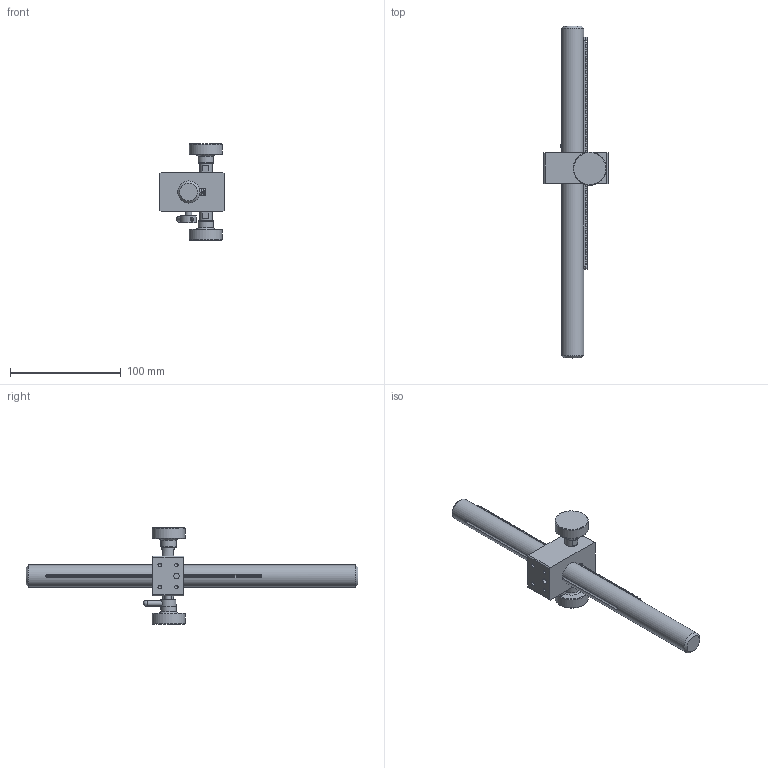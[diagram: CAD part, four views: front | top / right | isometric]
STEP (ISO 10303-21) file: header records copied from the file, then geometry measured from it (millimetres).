
FILE_DESCRIPTION (( 'STEP AP203' ), '1' );
FILE_NAME ('BZK300.STEP', '2024-08-06T01:27:00', ( 'Windows User' ), ( 'P R C' ), 'SwSTEP 2.0', 'SolidWorks 2024', '' );
FILE_SCHEMA (( 'CONFIG_CONTROL_DESIGN' ));
Products named in the file (1): BZK300
Bounding box: 58 x 300 x 87 mm (x, y, z)
Volume: 162770 mm3; surface area: 51346.8 mm2
Topology: 15 solids, 15 shells, 821 faces, 2304 edges, 1516 vertices
Faces by surface type: plane 649, cylinder 95, cone 34, bspline 33, sphere 6, torus 4
Full cylindrical faces by diameter (mm): 1.6 x4, 2 x2, 2.3 x2, 2.4 x2, 2.5 x4, 3 x1, 3.3 x7, 3.8 x2, 4 x1, 4.3 x2, 5 x3, 5.3 x1, 5.5 x1, 6 x1, 7 x5, 7.8 x2, 11.5 x2, 12.2 x2, 14 x3, 20 x1, 30 x2
Entity records: 136370 total; most frequent: CARTESIAN_POINT 116162, ORIENTED_EDGE 4332, DIRECTION 3775, EDGE_CURVE 2166, VECTOR 1751, LINE 1751, VERTEX_POINT 1477, AXIS2_PLACEMENT_3D 1012
